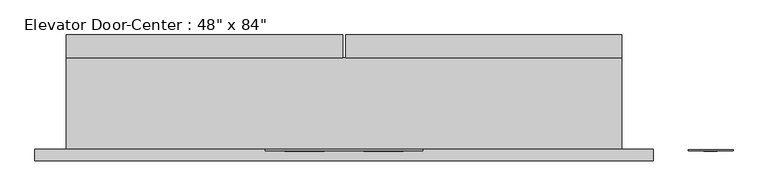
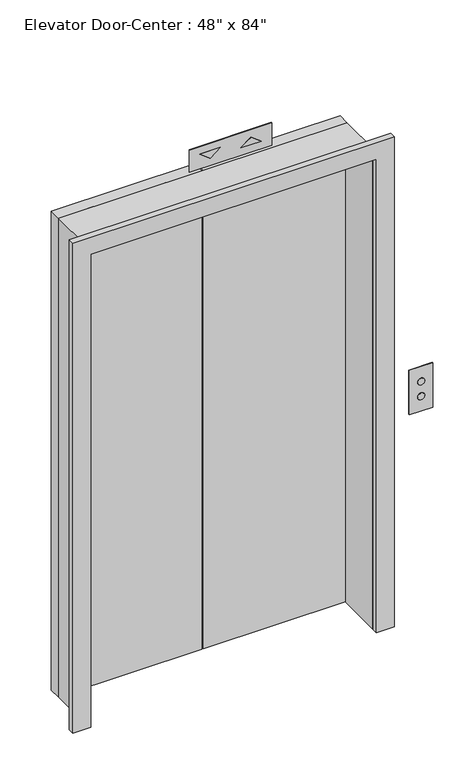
"""IFC4 building model written with IfcOpenShell, lengths in millimetres: proxy geometry."""

from ifc_helpers import new_model, si_unit, point, frame, frame_2d, origin, origin_with_axes, place, context, project, spatial, polyline, circle_curve, trimmed, segment, composite_curve, outline, extrude, source, transform, mapped, element, save


def proxy_fe7a46d2(model_context):
    return source(origin(), model_context, "Body", "SweptSolid", [
        extrude(outline(polyline([(2403.4666667, -230.3856443), (2370.1333333, -186.6356443), (2403.4666667, -142.8856443), (2403.4666667, -230.3856443)])), frame((0.0, -105.6, 0.0), z_axis=(0.0, 1.0, 0.0), x_axis=(0.0, 0.0, 1.0)), (0.0, 0.0, 1.0), 4.0),
        extrude(outline(polyline([(2370.1333333, -55.3856443), (2370.1333333, 32.1143557), (2403.4666667, -11.6356443), (2370.1333333, -55.3856443)])), frame((0.0, -105.6, 0.0), z_axis=(0.0, 1.0, 0.0), x_axis=(0.0, 0.0, 1.0)), (0.0, 0.0, 1.0), 4.0),
        extrude(outline(polyline([(2436.8, 75.8643557), (2436.8, -274.1356443), (2336.8, -274.1356443), (2336.8, 75.8643557), (2436.8, 75.8643557)]), holes=[polyline([(2370.1333333, -186.6356443), (2403.4666667, -230.3856443), (2403.4666667, -142.8856443), (2370.1333333, -186.6356443)]), polyline([(2403.4666667, -11.6356443), (2370.1333333, 32.1143557), (2370.1333333, -55.3856443), (2403.4666667, -11.6356443)])]), frame((0.0, -104.6, 0.0), z_axis=(0.0, 1.0, 0.0), x_axis=(0.0, 0.0, 1.0)), (0.0, 0.0, 1.0), 3.0),
        extrude(outline(composite_curve([segment(trimmed(circle_curve(frame_2d((1047.7333333, 713.6643557)), 15.0), [point((1047.7333333, 728.6643557))], [point((1047.7333333, 698.6643557))], False, "CARTESIAN"), True, "CONTINUOUS"), segment(trimmed(circle_curve(frame_2d((1047.7333333, 713.6643557)), 15.0), [point((1047.7333333, 698.6643557))], [point((1047.7333333, 728.6643557))], False, "CARTESIAN"), True, "CONTINUOUS")], self_intersect=False)), frame((0.0, -105.6, 0.0), z_axis=(0.0, 1.0, 0.0), x_axis=(0.0, 0.0, 1.0)), (0.0, 0.0, 1.0), 4.0),
        extrude(outline(composite_curve([segment(trimmed(circle_curve(frame_2d((981.0666667, 713.6643557)), 15.0), [point((981.0666667, 728.6643557))], [point((981.0666667, 698.6643557))], False, "CARTESIAN"), True, "CONTINUOUS"), segment(trimmed(circle_curve(frame_2d((981.0666667, 713.6643557)), 15.0), [point((981.0666667, 698.6643557))], [point((981.0666667, 728.6643557))], False, "CARTESIAN"), True, "CONTINUOUS")], self_intersect=False)), frame((0.0, -105.6, 0.0), z_axis=(0.0, 1.0, 0.0), x_axis=(0.0, 0.0, 1.0)), (0.0, 0.0, 1.0), 4.0),
        extrude(outline(polyline([(1114.4, 763.6643557), (1114.4, 663.6643557), (914.4, 663.6643557), (914.4, 763.6643557), (1114.4, 763.6643557)]), holes=[composite_curve([segment(trimmed(circle_curve(frame_2d((1047.7333333, 713.6643557)), 15.0), [point((1047.7333333, 728.6643557))], [point((1047.7333333, 698.6643557))], True, "CARTESIAN"), True, "CONTINUOUS"), segment(trimmed(circle_curve(frame_2d((1047.7333333, 713.6643557)), 15.0), [point((1047.7333333, 698.6643557))], [point((1047.7333333, 728.6643557))], True, "CARTESIAN"), True, "CONTINUOUS")], self_intersect=False), composite_curve([segment(trimmed(circle_curve(frame_2d((981.0666667, 713.6643557)), 15.0), [point((981.0666667, 728.6643557))], [point((981.0666667, 698.6643557))], True, "CARTESIAN"), True, "CONTINUOUS"), segment(trimmed(circle_curve(frame_2d((981.0666667, 713.6643557)), 15.0), [point((981.0666667, 698.6643557))], [point((981.0666667, 728.6643557))], True, "CARTESIAN"), True, "CONTINUOUS")], self_intersect=False)]), frame((0.0, -104.6, 0.0), z_axis=(0.0, 1.0, 0.0), x_axis=(0.0, 0.0, 1.0)), (0.0, 0.0, 1.0), 3.0),
        extrude(outline(polyline([(516.8143557, 101.6), (-95.9606443, 101.6), (-95.9606443, 152.4), (516.8143557, 152.4), (516.8143557, 101.6)])), origin_with_axes(), (0.0, 0.0, 1.0), 2159.0),
        extrude(outline(polyline([(-102.3106443, 101.6), (-715.0856443, 101.6), (-715.0856443, 152.4), (-102.3106443, 152.4), (-102.3106443, 101.6)])), origin_with_axes(), (0.0, 0.0, 1.0), 2159.0),
        extrude(outline(polyline([(0.0, -784.9356443), (0.0, -708.7356443), (2133.6, -708.7356443), (2133.6, 510.4643557), (0.0, 510.4643557), (0.0, 586.6643557), (2209.8, 586.6643557), (2209.8, -784.9356443), (0.0, -784.9356443)])), frame((0.0, -127.0, 0.0), z_axis=(0.0, 1.0, 0.0), x_axis=(0.0, 0.0, 1.0)), (0.0, 0.0, 1.0), 25.4),
        extrude(outline(polyline([(0.0, -715.0856443), (0.0, -708.7356443), (2133.6, -708.7356443), (2133.6, 510.4643557), (0.0, 510.4643557), (0.0, 516.8143557), (2159.0, 516.8143557), (2159.0, -715.0856443), (0.0, -715.0856443)])), frame((0.0, -101.6, 0.0), z_axis=(0.0, 1.0, 0.0), x_axis=(0.0, 0.0, 1.0)), (0.0, 0.0, 1.0), 203.2),
    ])


if __name__ == "__main__":
    model = new_model("IFC4")
    model_context = context("Model", 3, world=origin())
    ifc_project = project(units=[si_unit("LENGTHUNIT", "METRE", prefix="MILLI")], contexts=[model_context])
    site = spatial("IfcSite", under=ifc_project)
    building = spatial("IfcBuilding", under=site)
    placement = place(None, origin())
    proxy_shape = proxy_fe7a46d2(model_context)
    element("IfcBuildingElementProxy", 1, Name="Elevator Door-Center : 48\" x 84\"", ObjectType="Elevator Door-Center : 48\" x 84\"", at=placement, inside=building, context=model_context, shape_type="MappedRepresentation", body=[
        mapped(proxy_shape, transform((0.0, 0.0, 0.0), x_axis=(1.0, 0.0, 0.0), y_axis=(0.0, 1.0, 0.0), z_axis=(0.0, 0.0, 1.0))),
    ])
    save(model, "model.ifc")
